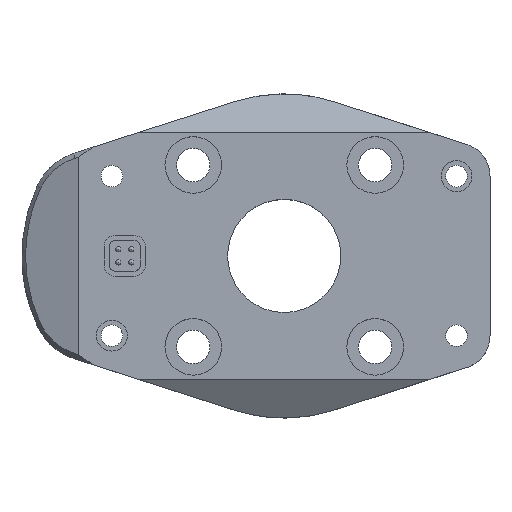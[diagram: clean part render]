
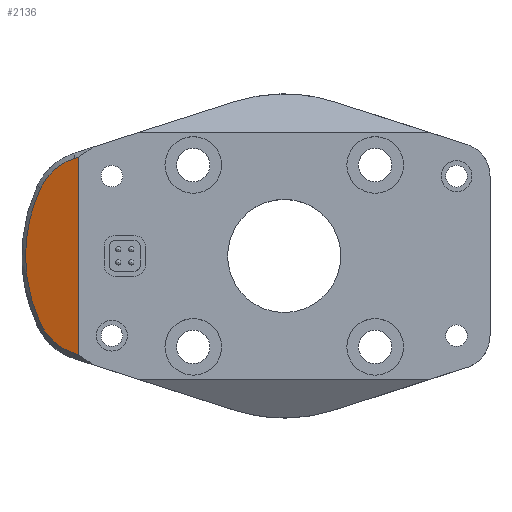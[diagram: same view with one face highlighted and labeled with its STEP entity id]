
A CAD part, top view. The second image highlights one B-rep face of the part: STEP entity #2136.
In plain terms, the highlighted planar face has unit normal (-0.342, 0, 0.94).
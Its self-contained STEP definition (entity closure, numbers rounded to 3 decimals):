
#106=B_SPLINE_CURVE_WITH_KNOTS('',3,(#3674,#3675,#3676,#3677),
 .UNSPECIFIED.,.F.,.F.,(4,4),(0.03,0.121),
 .UNSPECIFIED.);
#109=B_SPLINE_CURVE_WITH_KNOTS('',3,(#3707,#3708,#3709,#3710,#3711),
 .UNSPECIFIED.,.F.,.F.,(4,1,4),(0.121,0.521,1.053),
 .UNSPECIFIED.);
#111=B_SPLINE_CURVE_WITH_KNOTS('',3,(#3737,#3738,#3739,#3740,#3741),
 .UNSPECIFIED.,.F.,.F.,(4,1,4),(1.053,2.22,3.776),
 .UNSPECIFIED.);
#113=B_SPLINE_CURVE_WITH_KNOTS('',3,(#3767,#3768,#3769,#3770,#3771),
 .UNSPECIFIED.,.F.,.F.,(4,1,4),(3.776,4.308,4.707),
 .UNSPECIFIED.);
#114=B_SPLINE_CURVE_WITH_KNOTS('',3,(#3788,#3789,#3790,#3791),
 .UNSPECIFIED.,.F.,.F.,(4,4),(4.707,4.799),
 .UNSPECIFIED.);
#167=PLANE('',#2330);
#244=FACE_OUTER_BOUND('',#385,.T.);
#385=EDGE_LOOP('',(#1661,#1662,#1663,#1664,#1665,#1666));
#520=LINE('',#3314,#641);
#641=VECTOR('',#2627,10.);
#915=VERTEX_POINT('',#3305);
#917=VERTEX_POINT('',#3313);
#980=VERTEX_POINT('',#3673);
#981=VERTEX_POINT('',#3702);
#982=VERTEX_POINT('',#3732);
#983=VERTEX_POINT('',#3762);
#1149=EDGE_CURVE('',#915,#917,#520,.T.);
#1242=EDGE_CURVE('',#917,#980,#106,.T.);
#1245=EDGE_CURVE('',#980,#981,#109,.T.);
#1247=EDGE_CURVE('',#981,#982,#111,.T.);
#1249=EDGE_CURVE('',#982,#983,#113,.T.);
#1250=EDGE_CURVE('',#983,#915,#114,.T.);
#1661=ORIENTED_EDGE('',*,*,#1250,.F.);
#1662=ORIENTED_EDGE('',*,*,#1249,.F.);
#1663=ORIENTED_EDGE('',*,*,#1247,.F.);
#1664=ORIENTED_EDGE('',*,*,#1245,.F.);
#1665=ORIENTED_EDGE('',*,*,#1242,.F.);
#1666=ORIENTED_EDGE('',*,*,#1149,.F.);
#2136=ADVANCED_FACE('',(#244),#167,.F.);
#2330=AXIS2_PLACEMENT_3D('',#3792,#2769,#2770);
#2627=DIRECTION('',(0.,-1.,0.));
#2769=DIRECTION('center_axis',(0.342,0.,-0.94));
#2770=DIRECTION('ref_axis',(-0.94,0.,-0.342));
#3305=CARTESIAN_POINT('',(-40.,19.195,10.));
#3313=CARTESIAN_POINT('',(-40.,-19.195,10.));
#3314=CARTESIAN_POINT('',(-40.,0.,10.));
#3673=CARTESIAN_POINT('',(-40.821,-18.931,9.701));
#3674=CARTESIAN_POINT('Ctrl Pts',(-40.,-19.195,10.));
#3675=CARTESIAN_POINT('Ctrl Pts',(-40.274,-19.107,9.9));
#3676=CARTESIAN_POINT('Ctrl Pts',(-40.547,-19.019,9.801));
#3677=CARTESIAN_POINT('Ctrl Pts',(-40.821,-18.931,9.701));
#3702=CARTESIAN_POINT('',(-47.372,-13.142,7.319));
#3707=CARTESIAN_POINT('Ctrl Pts',(-40.821,-18.931,9.701));
#3708=CARTESIAN_POINT('Ctrl Pts',(-42.019,-18.547,9.266));
#3709=CARTESIAN_POINT('Ctrl Pts',(-44.677,-17.158,8.299));
#3710=CARTESIAN_POINT('Ctrl Pts',(-46.634,-14.734,7.588));
#3711=CARTESIAN_POINT('Ctrl Pts',(-47.372,-13.142,7.319));
#3732=CARTESIAN_POINT('',(-47.372,13.142,7.319));
#3737=CARTESIAN_POINT('Ctrl Pts',(-47.372,-13.142,7.319));
#3738=CARTESIAN_POINT('Ctrl Pts',(-48.988,-9.655,6.732));
#3739=CARTESIAN_POINT('Ctrl Pts',(-51.281,-0.716,
5.898));
#3740=CARTESIAN_POINT('Ctrl Pts',(-49.527,8.492,6.536));
#3741=CARTESIAN_POINT('Ctrl Pts',(-47.372,13.142,7.319));
#3762=CARTESIAN_POINT('',(-40.821,18.931,9.701));
#3767=CARTESIAN_POINT('Ctrl Pts',(-47.372,13.142,7.319));
#3768=CARTESIAN_POINT('Ctrl Pts',(-46.634,14.734,7.588));
#3769=CARTESIAN_POINT('Ctrl Pts',(-44.677,17.158,8.299));
#3770=CARTESIAN_POINT('Ctrl Pts',(-42.019,18.547,9.266));
#3771=CARTESIAN_POINT('Ctrl Pts',(-40.821,18.931,9.701));
#3788=CARTESIAN_POINT('Ctrl Pts',(-40.821,18.931,9.701));
#3789=CARTESIAN_POINT('Ctrl Pts',(-40.547,19.019,9.801));
#3790=CARTESIAN_POINT('Ctrl Pts',(-40.274,19.107,9.9));
#3791=CARTESIAN_POINT('Ctrl Pts',(-40.,19.195,10.));
#3792=CARTESIAN_POINT('Origin',(-51.,0.,6.));
